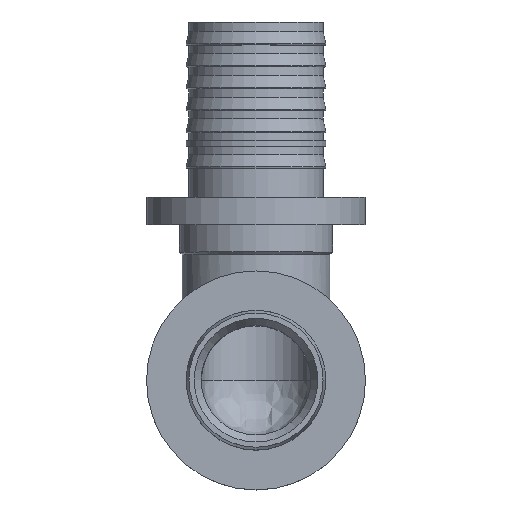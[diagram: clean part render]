
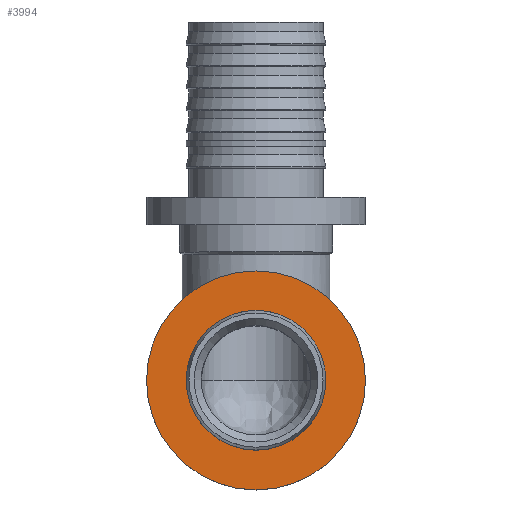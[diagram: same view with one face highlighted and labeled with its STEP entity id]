
A CAD part, top view. The second image highlights one B-rep face of the part: STEP entity #3994.
In plain terms, the highlighted planar face has unit normal (0, 0, 1).
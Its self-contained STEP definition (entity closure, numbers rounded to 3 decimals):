
#34=FACE_BOUND('',#616,.T.);
#115=PLANE('',#4332);
#387=FACE_OUTER_BOUND('',#615,.T.);
#615=EDGE_LOOP('',(#3414,#3415));
#616=EDGE_LOOP('',(#3416,#3417));
#734=CIRCLE('',#4170,12.25);
#735=CIRCLE('',#4171,12.25);
#849=CIRCLE('',#4333,20.);
#850=CIRCLE('',#4334,20.);
#1760=VERTEX_POINT('',#8289);
#1761=VERTEX_POINT('',#8290);
#1865=VERTEX_POINT('',#8583);
#1866=VERTEX_POINT('',#8584);
#2296=EDGE_CURVE('',#1760,#1761,#734,.T.);
#2298=EDGE_CURVE('',#1761,#1760,#735,.T.);
#2437=EDGE_CURVE('',#1865,#1866,#849,.T.);
#2438=EDGE_CURVE('',#1866,#1865,#850,.T.);
#3414=ORIENTED_EDGE('',*,*,#2437,.F.);
#3415=ORIENTED_EDGE('',*,*,#2438,.F.);
#3416=ORIENTED_EDGE('',*,*,#2296,.F.);
#3417=ORIENTED_EDGE('',*,*,#2298,.F.);
#3994=ADVANCED_FACE('',(#387,#34),#115,.T.);
#4170=AXIS2_PLACEMENT_3D('',#8291,#4757,#4758);
#4171=AXIS2_PLACEMENT_3D('',#8293,#4760,#4761);
#4332=AXIS2_PLACEMENT_3D('',#8582,#5107,#5108);
#4333=AXIS2_PLACEMENT_3D('',#8585,#5109,#5110);
#4334=AXIS2_PLACEMENT_3D('',#8586,#5111,#5112);
#4757=DIRECTION('center_axis',(0.,0.,1.));
#4758=DIRECTION('ref_axis',(1.,0.,0.));
#4760=DIRECTION('center_axis',(0.,0.,1.));
#4761=DIRECTION('ref_axis',(1.,0.,0.));
#5107=DIRECTION('center_axis',(0.,0.,1.));
#5108=DIRECTION('ref_axis',(1.,0.,0.));
#5109=DIRECTION('center_axis',(0.,0.,-1.));
#5110=DIRECTION('ref_axis',(1.,0.,0.));
#5111=DIRECTION('center_axis',(0.,0.,-1.));
#5112=DIRECTION('ref_axis',(1.,0.,0.));
#8289=CARTESIAN_POINT('',(0.,-53.25,33.5));
#8290=CARTESIAN_POINT('',(0.,-77.75,33.5));
#8291=CARTESIAN_POINT('Origin',(0.,-65.5,33.5));
#8293=CARTESIAN_POINT('Origin',(0.,-65.5,33.5));
#8582=CARTESIAN_POINT('Origin',(0.,-45.5,33.5));
#8583=CARTESIAN_POINT('',(0.,-45.5,33.5));
#8584=CARTESIAN_POINT('',(0.,-85.5,33.5));
#8585=CARTESIAN_POINT('Origin',(0.,-65.5,33.5));
#8586=CARTESIAN_POINT('Origin',(0.,-65.5,33.5));
